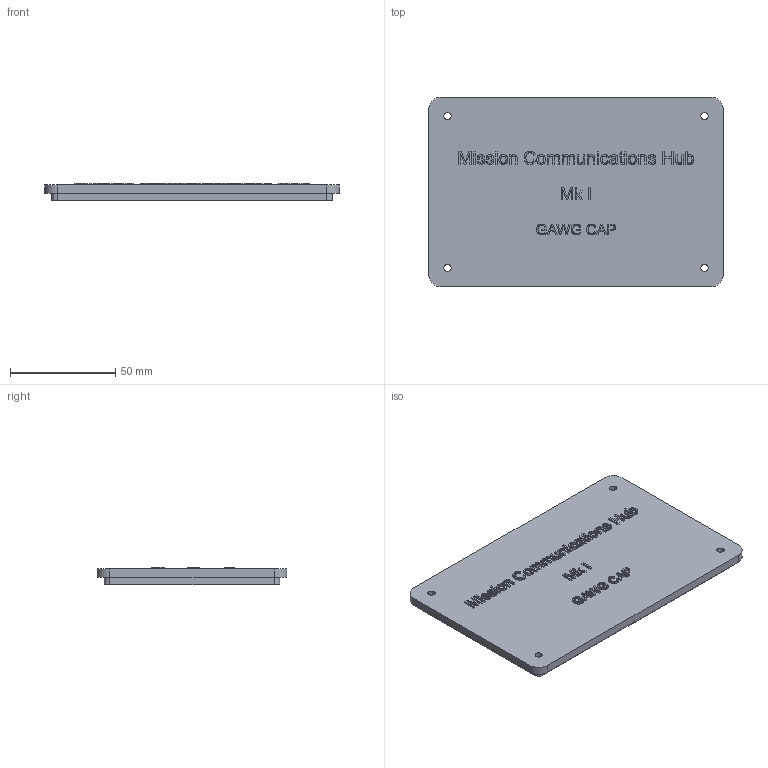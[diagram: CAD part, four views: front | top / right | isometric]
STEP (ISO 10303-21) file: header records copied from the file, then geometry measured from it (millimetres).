
FILE_DESCRIPTION(('Open CASCADE Model'),'2;1');
FILE_NAME('Open CASCADE Shape Model','2026-07-22T08:32:17',('Author'),( 'Open CASCADE'),'Open CASCADE STEP processor 7.9','Open CASCADE 7.9' ,'Unknown');
FILE_SCHEMA(('AUTOMOTIVE_DESIGN { 1 0 10303 214 1 1 1 1 }'));
Products named in the file (1): Open CASCADE STEP translator 7.9 2
Bounding box: 140 x 90 x 8.3 mm (x, y, z)
Volume: 53046.4 mm3; surface area: 30737.1 mm2
Topology: 1 solids, 1 shells, 733 faces, 2049 edges, 1366 vertices
Faces by surface type: extrusion 415, plane 302, cylinder 16
Full cylindrical faces by diameter (mm): 3.4 x4, 10.3 x4
Entity records: 50632 total; most frequent: CARTESIAN_POINT 12593, DIRECTION 5524, VECTOR 4794, LINE 4379, ORIENTED_EDGE 4098, PCURVE 4098, DEFINITIONAL_REPRESENTATION 4098, B_SPLINE_CURVE_WITH_KNOTS 2103
